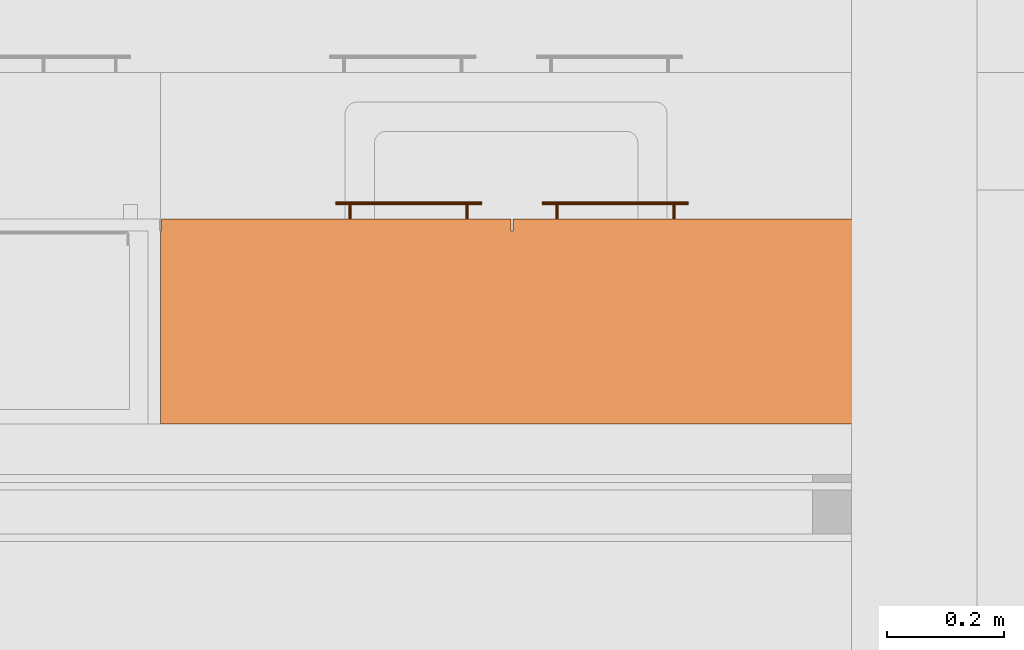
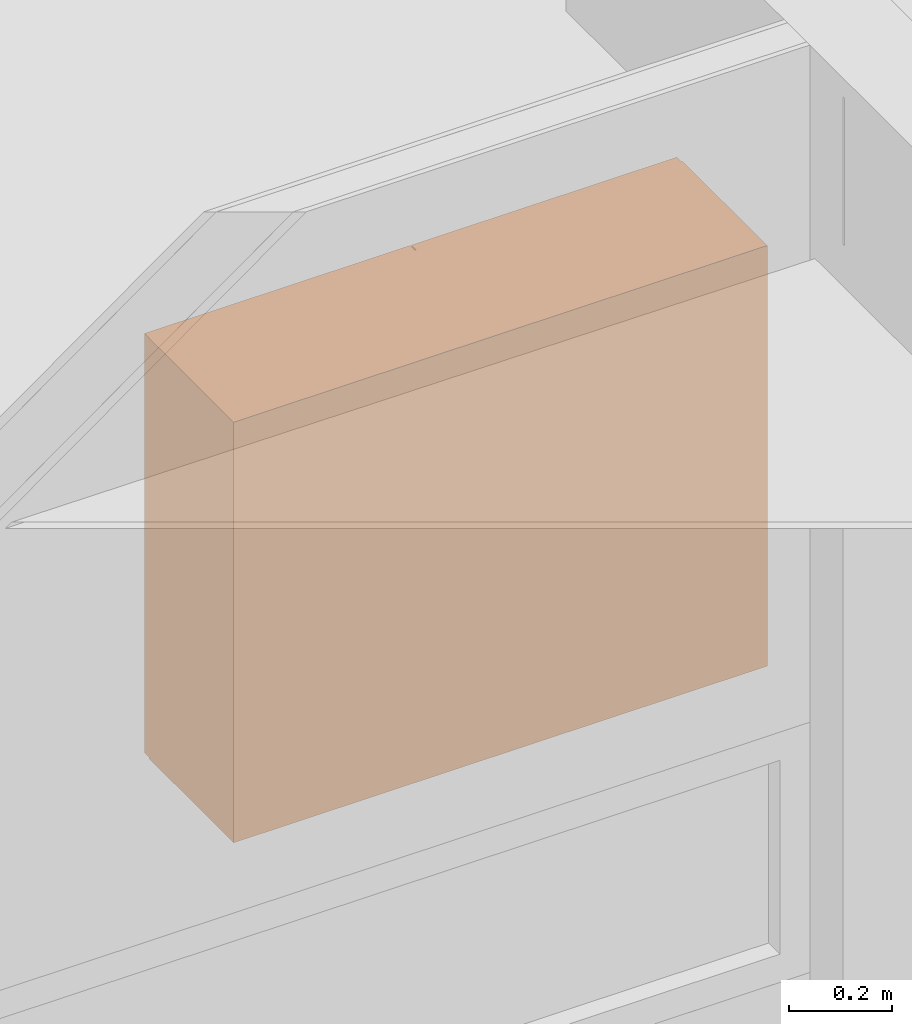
# One storey, part 159 of 167: 1 proxy.
"""IFC2X3 building model written with IfcOpenShell, lengths in millimetres."""

from ifc_helpers import new_model, entity, si_unit, converted_unit, derived_unit, money_unit, direction, frame, origin_with_axes, place, context, subcontext, project, spatial, open_shell, faceted_brep, surface_model, type_object, element, save


model = new_model("IFC2X3")

# Units and contexts
model_context = context("Model", 3, precision=0.01, world=origin_with_axes(), true_north=direction((0.0, 1.0)))
plan_context = context("Plan", 3, precision=0.01, world=origin_with_axes(), true_north=direction((0.0, 1.0)))
body_context = subcontext(model_context, "Body", "Model", "MODEL_VIEW")
ifc_project = project(units=[si_unit("LENGTHUNIT", "METRE", prefix="MILLI"), si_unit("AREAUNIT", "SQUARE_METRE"), si_unit("VOLUMEUNIT", "CUBIC_METRE"), converted_unit("PLANEANGLEUNIT", "DEGREE", entity("IfcPlaneAngleMeasure", 0.0174532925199), si_unit("PLANEANGLEUNIT", "RADIAN"), dimensions=[0, 0, 0, 0, 0, 0, 0]), si_unit("SOLIDANGLEUNIT", "STERADIAN"), money_unit("EUR"), converted_unit("TIMEUNIT", "Year", entity("IfcTimeMeasure", 31556926.0), si_unit("TIMEUNIT", "SECOND"), dimensions=[0, 0, 1, 0, 0, 0, 0]), si_unit("MASSUNIT", "GRAM", prefix="KILO"), si_unit("THERMODYNAMICTEMPERATUREUNIT", "DEGREE_CELSIUS"), si_unit("LUMINOUSINTENSITYUNIT", "LUMEN"), si_unit("ENERGYUNIT", "JOULE", prefix="MEGA"), derived_unit("THERMALCONDUCTANCEUNIT", [(si_unit("POWERUNIT", "WATT"), 1), (si_unit("LENGTHUNIT", "METRE"), -1), (si_unit("THERMODYNAMICTEMPERATUREUNIT", "KELVIN"), -1)]), derived_unit("SPECIFICHEATCAPACITYUNIT", [(si_unit("ENERGYUNIT", "JOULE"), 1), (si_unit("MASSUNIT", "GRAM", prefix="KILO"), -1), (si_unit("THERMODYNAMICTEMPERATUREUNIT", "KELVIN"), -1)]), derived_unit("MASSDENSITYUNIT", [(si_unit("MASSUNIT", "GRAM", prefix="KILO"), 1), (si_unit("VOLUMEUNIT", "CUBIC_METRE"), -1)])], contexts=[model_context, plan_context])

# Site, building, storey
site_placement = place(None, origin_with_axes())
site = spatial("IfcSite", under=ifc_project, at=site_placement, Name="Site", CompositionType="ELEMENT")
building_placement = place(site_placement, origin_with_axes())
building = spatial("IfcBuilding", under=site, at=building_placement, Name="Naam gebouw", CompositionType="ELEMENT")
storey_placement = place(building_placement, origin_with_axes())
storey = spatial("IfcBuildingStorey", under=building, at=storey_placement, Name="Begane grond", CompositionType="ELEMENT", Elevation=0.0)

# Proxy
building_element_proxy_type = type_object("IfcBuildingElementProxyType", Name="Kast wand 2D 24", PredefinedType="NOTDEFINED")
proxy_placement = place(storey_placement, frame((37994.9999937, 42199.9999946, 200.07308756), z_axis=(0.0, 0.0, 1.0), x_axis=(-1.0, -5.0413521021e-09, 0.0)))
element("IfcBuildingElementProxy", 1, at=proxy_placement, inside=storey, type_object=building_element_proxy_type, Name="__Object-x", context=body_context, shape_type="SurfaceModel", body=[
    faceted_brep([(0.0, 20.0, 2480.0), (20.0, 20.0, 2480.0), (20.0, 20.0, 2500.0), (0.0, 20.0, 2500.0), (0.0, 350.0, 2480.0), (20.0, 350.0, 2480.0), (1180.0, 350.0, 2480.0), (1200.0, 350.0, 2480.0), (1200.0, 20.0, 2480.0), (1180.0, 20.0, 2480.0), (1180.0, 20.0, 2500.0), (1200.0, 20.0, 2500.0), (1200.0, 350.0, 2500.0), (1180.0, 350.0, 2500.0), (20.0, 350.0, 2500.0), (0.0, 350.0, 2500.0)], [[[0, 1, 2, 3]], [[0, 4, 5, 6, 7, 8, 9, 1]], [[1, 9, 10, 2]], [[3, 2, 10, 11, 12, 13, 14, 15]], [[4, 0, 3, 15]], [[5, 4, 15, 14]], [[6, 5, 14, 13]], [[7, 6, 13, 12]], [[8, 7, 12, 11]], [[9, 8, 11, 10]]]),
    faceted_brep([(0.0, 20.0, 1500.0), (20.0, 20.0, 1500.0), (20.0, 20.0, 1520.0), (0.0, 20.0, 1520.0), (0.0, 350.0, 1500.0), (20.0, 350.0, 1500.0), (1180.0, 350.0, 1500.0), (1200.0, 350.0, 1500.0), (1200.0, 20.0, 1500.0), (1180.0, 20.0, 1500.0), (1180.0, 20.0, 1520.0), (1200.0, 20.0, 1520.0), (1200.0, 350.0, 1520.0), (1180.0, 350.0, 1520.0), (20.0, 350.0, 1520.0), (0.0, 350.0, 1520.0)], [[[0, 1, 2, 3]], [[0, 4, 5, 6, 7, 8, 9, 1]], [[1, 9, 10, 2]], [[3, 2, 10, 11, 12, 13, 14, 15]], [[4, 0, 3, 15]], [[5, 4, 15, 14]], [[6, 5, 14, 13]], [[7, 6, 13, 12]], [[8, 7, 12, 11]], [[9, 8, 11, 10]]]),
    faceted_brep([(0.0, 20.0, 1520.0), (20.0, 20.0, 1520.0), (20.0, 20.0, 2480.0), (0.0, 20.0, 2480.0), (0.0, 350.0, 1520.0), (1200.0, 350.0, 1520.0), (1200.0, 20.0, 1520.0), (1180.0, 20.0, 1520.0), (1180.0, 330.0, 1520.0), (20.0, 330.0, 1520.0), (20.0, 330.0, 2480.0), (1180.0, 330.0, 2480.0), (1180.0, 20.0, 2480.0), (1200.0, 20.0, 2480.0), (1200.0, 350.0, 2480.0), (0.0, 350.0, 2480.0)], [[[0, 1, 2, 3]], [[0, 4, 5, 6, 7, 8, 9, 1]], [[1, 9, 10, 2]], [[3, 2, 10, 11, 12, 13, 14, 15]], [[4, 0, 3, 15]], [[5, 4, 15, 14]], [[6, 5, 14, 13]], [[7, 6, 13, 12]], [[8, 7, 12, 11]], [[9, 8, 11, 10]]]),
    faceted_brep([(1180.0, 20.0, 1813.33333333), (1180.0, 330.0, 1813.33333333), (1180.0, 330.0, 1833.33333333), (1180.0, 20.0, 1833.33333333), (20.0, 20.0, 1813.33333333), (20.0, 330.0, 1813.33333333), (20.0, 330.0, 1833.33333333), (20.0, 20.0, 1833.33333333)], [[[0, 1, 2, 3]], [[0, 4, 5, 1]], [[1, 5, 6, 2]], [[3, 2, 6, 7]], [[4, 0, 3, 7]], [[5, 4, 7, 6]]]),
    faceted_brep([(1180.0, 20.0, 2146.66666667), (1180.0, 330.0, 2146.66666667), (1180.0, 330.0, 2166.66666667), (1180.0, 20.0, 2166.66666667), (20.0, 20.0, 2146.66666667), (20.0, 330.0, 2146.66666667), (20.0, 330.0, 2166.66666667), (20.0, 20.0, 2166.66666667)], [[[0, 1, 2, 3]], [[0, 4, 5, 1]], [[1, 5, 6, 2]], [[3, 2, 6, 7]], [[4, 0, 3, 7]], [[5, 4, 7, 6]]]),
    faceted_brep([(1.5, 20.0, 1501.5), (598.5, 20.0, 1501.5), (598.5, 0.0, 1501.5), (1.5, 0.0, 1501.5), (1.5, 20.0, 2498.5), (598.5, 20.0, 2498.5), (598.5, 0.0, 2498.5), (1.5, 0.0, 2498.5)], [[[0, 1, 2, 3]], [[0, 4, 5, 1]], [[1, 5, 6, 2]], [[3, 2, 6, 7]], [[4, 0, 3, 7]], [[5, 4, 7, 6]]]),
    faceted_brep([(298.5, -28.1480502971, 1548.7283614), (298.5, -29.1213203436, 1549.37867966), (298.5, -29.7716385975, 1550.3519497), (298.5, -30.0, 1551.5), (298.5, -29.7716385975, 1552.6480503), (298.5, -29.1213203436, 1553.62132034), (298.5, -28.1480502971, 1554.2716386), (298.5, -27.0, 1554.5), (298.5, -25.8519497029, 1554.2716386), (298.5, -24.8786796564, 1553.62132034), (298.5, -24.2283614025, 1552.6480503), (298.5, -24.0, 1551.5), (298.5, -24.2283614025, 1550.3519497), (298.5, -24.8786796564, 1549.37867966), (298.5, -25.8519497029, 1548.7283614), (298.5, -27.0, 1548.5), (548.5, -28.1480502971, 1548.7283614), (548.5, -29.1213203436, 1549.37867966), (548.5, -29.7716385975, 1550.3519497), (548.5, -30.0, 1551.5), (548.5, -29.7716385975, 1552.6480503), (548.5, -29.1213203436, 1553.62132034), (548.5, -28.1480502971, 1554.2716386), (548.5, -27.0, 1554.5), (548.5, -25.8519497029, 1554.2716386), (548.5, -24.8786796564, 1553.62132034), (548.5, -24.2283614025, 1552.6480503), (548.5, -24.0, 1551.5), (548.5, -24.2283614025, 1550.3519497), (548.5, -24.8786796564, 1549.37867966), (548.5, -25.8519497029, 1548.7283614), (548.5, -27.0, 1548.5)], [[[0, 1, 2, 3, 4, 5, 6, 7, 8, 9, 10, 11, 12, 13, 14, 15]], [[1, 0, 16, 17]], [[2, 1, 17, 18]], [[3, 2, 18, 19]], [[4, 3, 19, 20]], [[5, 4, 20, 21]], [[6, 5, 21, 22]], [[7, 6, 22, 23]], [[8, 7, 23, 24]], [[9, 8, 24, 25]], [[10, 9, 25, 26]], [[11, 10, 26, 27]], [[12, 11, 27, 28]], [[13, 12, 28, 29]], [[14, 13, 29, 30]], [[15, 14, 30, 31]], [[0, 15, 31, 16]], [[16, 31, 30, 29, 28, 27, 26, 25, 24, 23, 22, 21, 20, 19, 18, 17]]]),
    surface_model("IfcShellBasedSurfaceModel", [(321.190301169, -24.156637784, 1550.54329142), (321.0, -24.0, 1551.5), (321.0, 0.0, 1551.5), (321.190301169, 0.0, 1550.54329142), (321.190301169, -24.156637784, 1552.45670858), (321.190301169, 0.0, 1552.45670858), (321.732233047, 0.0, 1553.26776695), (322.543291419, 0.0, 1553.80969883), (323.5, 0.0, 1554.0), (324.456708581, 0.0, 1553.80969883), (325.267766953, 0.0, 1553.26776695), (325.809698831, 0.0, 1552.45670858), (326.0, 0.0, 1551.5), (325.809698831, 0.0, 1550.54329142), (325.267766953, 0.0, 1549.73223305), (324.456708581, 0.0, 1549.19030117), (323.5, 0.0, 1549.0), (322.543291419, 0.0, 1549.19030117), (321.732233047, 0.0, 1549.73223305), (321.732233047, -24.5761600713, 1549.73223305), (321.732233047, -24.5761600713, 1553.26776695), (322.543291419, -25.0855049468, 1553.80969883), (323.5, -25.3416876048, 1554.0), (324.456708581, -25.0855049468, 1553.80969883), (325.267766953, -24.5761600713, 1553.26776695), (325.809698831, -24.156637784, 1552.45670858), (326.0, -24.0, 1551.5), (325.809698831, -24.156637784, 1550.54329142), (325.267766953, -24.5761600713, 1549.73223305), (324.456708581, -25.0855049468, 1549.19030117), (323.5, -25.3416876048, 1549.0), (322.543291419, -25.0855049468, 1549.19030117)], [open_shell([[[0, 1, 2, 3]], [[1, 4, 5, 2]], [[3, 2, 5, 6, 7, 8, 9, 10, 11, 12, 13, 14, 15, 16, 17, 18]], [[19, 0, 3, 18]], [[4, 20, 6, 5]], [[20, 21, 7, 6]], [[21, 22, 8, 7]], [[22, 23, 9, 8]], [[23, 24, 10, 9]], [[24, 25, 11, 10]], [[25, 26, 12, 11]], [[26, 27, 13, 12]], [[27, 28, 14, 13]], [[28, 29, 15, 14]], [[29, 30, 16, 15]], [[30, 31, 17, 16]], [[31, 19, 18, 17]]])]),
    surface_model("IfcShellBasedSurfaceModel", [(521.190301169, -24.156637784, 1550.54329142), (521.0, -24.0, 1551.5), (521.0, 0.0, 1551.5), (521.190301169, 0.0, 1550.54329142), (521.190301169, -24.156637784, 1552.45670858), (521.190301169, 0.0, 1552.45670858), (521.732233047, 0.0, 1553.26776695), (522.543291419, 0.0, 1553.80969883), (523.5, 0.0, 1554.0), (524.456708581, 0.0, 1553.80969883), (525.267766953, 0.0, 1553.26776695), (525.809698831, 0.0, 1552.45670858), (526.0, 0.0, 1551.5), (525.809698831, 0.0, 1550.54329142), (525.267766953, 0.0, 1549.73223305), (524.456708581, 0.0, 1549.19030117), (523.5, 0.0, 1549.0), (522.543291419, 0.0, 1549.19030117), (521.732233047, 0.0, 1549.73223305), (521.732233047, -24.5761600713, 1549.73223305), (521.732233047, -24.5761600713, 1553.26776695), (522.543291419, -25.0855049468, 1553.80969883), (523.5, -25.3416876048, 1554.0), (524.456708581, -25.0855049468, 1553.80969883), (525.267766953, -24.5761600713, 1553.26776695), (525.809698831, -24.156637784, 1552.45670858), (526.0, -24.0, 1551.5), (525.809698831, -24.156637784, 1550.54329142), (525.267766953, -24.5761600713, 1549.73223305), (524.456708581, -25.0855049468, 1549.19030117), (523.5, -25.3416876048, 1549.0), (522.543291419, -25.0855049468, 1549.19030117)], [open_shell([[[0, 1, 2, 3]], [[1, 4, 5, 2]], [[3, 2, 5, 6, 7, 8, 9, 10, 11, 12, 13, 14, 15, 16, 17, 18]], [[19, 0, 3, 18]], [[4, 20, 6, 5]], [[20, 21, 7, 6]], [[21, 22, 8, 7]], [[22, 23, 9, 8]], [[23, 24, 10, 9]], [[24, 25, 11, 10]], [[25, 26, 12, 11]], [[26, 27, 13, 12]], [[27, 28, 14, 13]], [[28, 29, 15, 14]], [[29, 30, 16, 15]], [[30, 31, 17, 16]], [[31, 19, 18, 17]]])]),
    faceted_brep([(1198.5, 20.0, 1501.5), (1198.5, 0.0, 1501.5), (601.5, 0.0, 1501.5), (601.5, 20.0, 1501.5), (1198.5, 20.0, 2498.5), (1198.5, 0.0, 2498.5), (601.5, 0.0, 2498.5), (601.5, 20.0, 2498.5)], [[[0, 1, 2, 3]], [[4, 5, 1, 0]], [[1, 5, 6, 2]], [[3, 2, 6, 7]], [[0, 3, 7, 4]], [[7, 6, 5, 4]]]),
    faceted_brep([(901.5, -28.1480502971, 1548.7283614), (901.5, -27.0, 1548.5), (901.5, -25.8519497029, 1548.7283614), (901.5, -24.8786796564, 1549.37867966), (901.5, -24.2283614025, 1550.3519497), (901.5, -24.0, 1551.5), (901.5, -24.2283614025, 1552.6480503), (901.5, -24.8786796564, 1553.62132034), (901.5, -25.8519497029, 1554.2716386), (901.5, -27.0, 1554.5), (901.5, -28.1480502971, 1554.2716386), (901.5, -29.1213203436, 1553.62132034), (901.5, -29.7716385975, 1552.6480503), (901.5, -30.0, 1551.5), (901.5, -29.7716385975, 1550.3519497), (901.5, -29.1213203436, 1549.37867966), (651.5, -28.1480502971, 1548.7283614), (651.5, -27.0, 1548.5), (651.5, -25.8519497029, 1548.7283614), (651.5, -24.8786796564, 1549.37867966), (651.5, -24.2283614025, 1550.3519497), (651.5, -24.0, 1551.5), (651.5, -24.2283614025, 1552.6480503), (651.5, -24.8786796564, 1553.62132034), (651.5, -25.8519497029, 1554.2716386), (651.5, -27.0, 1554.5), (651.5, -28.1480502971, 1554.2716386), (651.5, -29.1213203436, 1553.62132034), (651.5, -29.7716385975, 1552.6480503), (651.5, -30.0, 1551.5), (651.5, -29.7716385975, 1550.3519497), (651.5, -29.1213203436, 1549.37867966)], [[[0, 1, 2, 3, 4, 5, 6, 7, 8, 9, 10, 11, 12, 13, 14, 15]], [[0, 16, 17, 1]], [[1, 17, 18, 2]], [[2, 18, 19, 3]], [[3, 19, 20, 4]], [[4, 20, 21, 5]], [[5, 21, 22, 6]], [[6, 22, 23, 7]], [[7, 23, 24, 8]], [[8, 24, 25, 9]], [[9, 25, 26, 10]], [[10, 26, 27, 11]], [[11, 27, 28, 12]], [[12, 28, 29, 13]], [[13, 29, 30, 14]], [[14, 30, 31, 15]], [[15, 31, 16, 0]], [[16, 31, 30, 29, 28, 27, 26, 25, 24, 23, 22, 21, 20, 19, 18, 17]]]),
    surface_model("IfcShellBasedSurfaceModel", [(878.809698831, -24.156637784, 1550.54329142), (878.809698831, 0.0, 1550.54329142), (879.0, 0.0, 1551.5), (879.0, -24.0, 1551.5), (878.267766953, -24.5761600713, 1549.73223305), (878.267766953, 0.0, 1549.73223305), (877.456708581, 0.0, 1549.19030117), (876.5, 0.0, 1549.0), (875.543291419, 0.0, 1549.19030117), (874.732233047, 0.0, 1549.73223305), (874.190301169, 0.0, 1550.54329142), (874.0, 0.0, 1551.5), (874.190301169, 0.0, 1552.45670858), (874.732233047, 0.0, 1553.26776695), (875.543291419, 0.0, 1553.80969883), (876.5, 0.0, 1554.0), (877.456708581, 0.0, 1553.80969883), (878.267766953, 0.0, 1553.26776695), (878.809698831, 0.0, 1552.45670858), (878.809698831, -24.156637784, 1552.45670858), (877.456708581, -25.0855049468, 1549.19030117), (876.5, -25.3416876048, 1549.0), (875.543291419, -25.0855049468, 1549.19030117), (874.732233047, -24.5761600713, 1549.73223305), (874.190301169, -24.156637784, 1550.54329142), (874.0, -24.0, 1551.5), (874.190301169, -24.156637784, 1552.45670858), (874.732233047, -24.5761600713, 1553.26776695), (875.543291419, -25.0855049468, 1553.80969883), (876.5, -25.3416876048, 1554.0), (877.456708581, -25.0855049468, 1553.80969883), (878.267766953, -24.5761600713, 1553.26776695)], [open_shell([[[0, 1, 2, 3]], [[4, 5, 1, 0]], [[1, 5, 6, 7, 8, 9, 10, 11, 12, 13, 14, 15, 16, 17, 18, 2]], [[3, 2, 18, 19]], [[20, 6, 5, 4]], [[21, 7, 6, 20]], [[22, 8, 7, 21]], [[23, 9, 8, 22]], [[24, 10, 9, 23]], [[25, 11, 10, 24]], [[26, 12, 11, 25]], [[27, 13, 12, 26]], [[28, 14, 13, 27]], [[29, 15, 14, 28]], [[30, 16, 15, 29]], [[31, 17, 16, 30]], [[19, 18, 17, 31]]])]),
    surface_model("IfcShellBasedSurfaceModel", [(678.809698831, -24.156637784, 1550.54329142), (678.809698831, 0.0, 1550.54329142), (679.0, 0.0, 1551.5), (679.0, -24.0, 1551.5), (678.267766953, -24.5761600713, 1549.73223305), (678.267766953, 0.0, 1549.73223305), (677.456708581, 0.0, 1549.19030117), (676.5, 0.0, 1549.0), (675.543291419, 0.0, 1549.19030117), (674.732233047, 0.0, 1549.73223305), (674.190301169, 0.0, 1550.54329142), (674.0, 0.0, 1551.5), (674.190301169, 0.0, 1552.45670858), (674.732233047, 0.0, 1553.26776695), (675.543291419, 0.0, 1553.80969883), (676.5, 0.0, 1554.0), (677.456708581, 0.0, 1553.80969883), (678.267766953, 0.0, 1553.26776695), (678.809698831, 0.0, 1552.45670858), (678.809698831, -24.156637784, 1552.45670858), (677.456708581, -25.0855049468, 1549.19030117), (676.5, -25.3416876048, 1549.0), (675.543291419, -25.0855049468, 1549.19030117), (674.732233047, -24.5761600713, 1549.73223305), (674.190301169, -24.156637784, 1550.54329142), (674.0, -24.0, 1551.5), (674.190301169, -24.156637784, 1552.45670858), (674.732233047, -24.5761600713, 1553.26776695), (675.543291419, -25.0855049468, 1553.80969883), (676.5, -25.3416876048, 1554.0), (677.456708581, -25.0855049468, 1553.80969883), (678.267766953, -24.5761600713, 1553.26776695)], [open_shell([[[0, 1, 2, 3]], [[4, 5, 1, 0]], [[1, 5, 6, 7, 8, 9, 10, 11, 12, 13, 14, 15, 16, 17, 18, 2]], [[3, 2, 18, 19]], [[20, 6, 5, 4]], [[21, 7, 6, 20]], [[22, 8, 7, 21]], [[23, 9, 8, 22]], [[24, 10, 9, 23]], [[25, 11, 10, 24]], [[26, 12, 11, 25]], [[27, 13, 12, 26]], [[28, 14, 13, 27]], [[29, 15, 14, 28]], [[30, 16, 15, 29]], [[31, 17, 16, 30]], [[19, 18, 17, 31]]])]),
])

save(model, "model.ifc")
